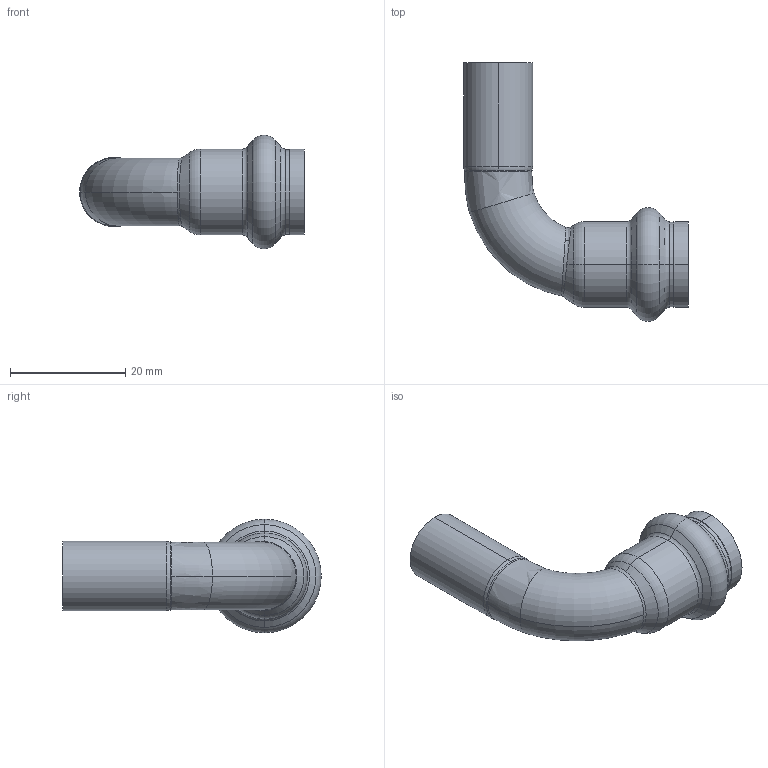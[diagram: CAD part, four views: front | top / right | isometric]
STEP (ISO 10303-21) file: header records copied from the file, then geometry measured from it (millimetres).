
FILE_DESCRIPTION (( 'STEP AP203' ), '1' );
FILE_NAME ('SP5001 Ø12.STEP', '2017-04-24T07:54:30', ( '' ), ( '' ), 'SwSTEP 2.0', 'SolidWorks 2016', '' );
FILE_SCHEMA (( 'CONFIG_CONTROL_DESIGN' ));
Length unit declared in the file: millimetre
Products named in the file (1): SP5001 ﾘ12
Bounding box: 39 x 44.85 x 19.7 mm (x, y, z)
Volume: 3338.2 mm3; surface area: 4864.5 mm2
Topology: 1 solids, 1 shells, 66 faces, 146 edges, 84 vertices
Faces by surface type: torus 24, cylinder 16, cone 12, bspline 10, plane 4
Entity records: 3394 total; most frequent: CARTESIAN_POINT 1894, DIRECTION 314, ORIENTED_EDGE 292, EDGE_CURVE 146, AXIS2_PLACEMENT_3D 143, CIRCLE 86, VERTEX_POINT 84, EDGE_LOOP 70
